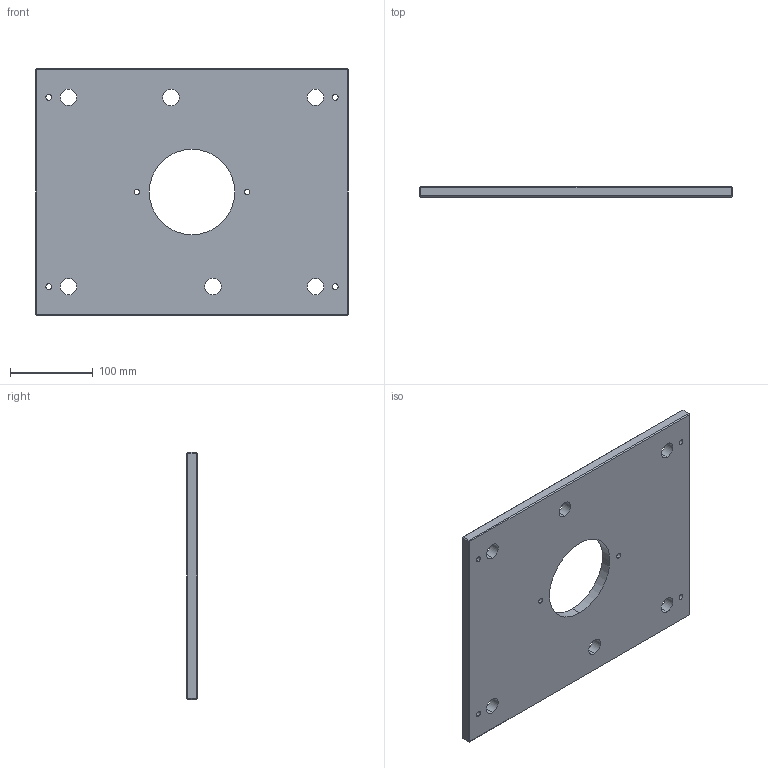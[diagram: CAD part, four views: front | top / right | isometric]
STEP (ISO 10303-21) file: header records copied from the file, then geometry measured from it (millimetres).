
FILE_DESCRIPTION (( 'STEP AP214' ), '1' );
FILE_NAME ('ME-0619-CH-1215-A.STEP', '2020-02-12T09:34:29', ( '' ), ( '' ), 'SwSTEP 2.0', 'SolidWorks 2018', '' );
FILE_SCHEMA (( 'AUTOMOTIVE_DESIGN' ));
Length unit declared in the file: inch
Products named in the file (1): ME-0619-CH-1215-A
Bounding box: 377.82 x 12.7 x 298.45 mm (x, y, z)
Volume: 1296071.7 mm3; surface area: 230122 mm2
Topology: 1 solids, 1 shells, 64 faces, 150 edges, 88 vertices
Faces by surface type: cylinder 26, plane 26, cone 12
Entity records: 1902 total; most frequent: DIRECTION 344, CARTESIAN_POINT 303, ORIENTED_EDGE 300, EDGE_CURVE 150, AXIS2_PLACEMENT_3D 129, EDGE_LOOP 90, VERTEX_POINT 88, LINE 86
